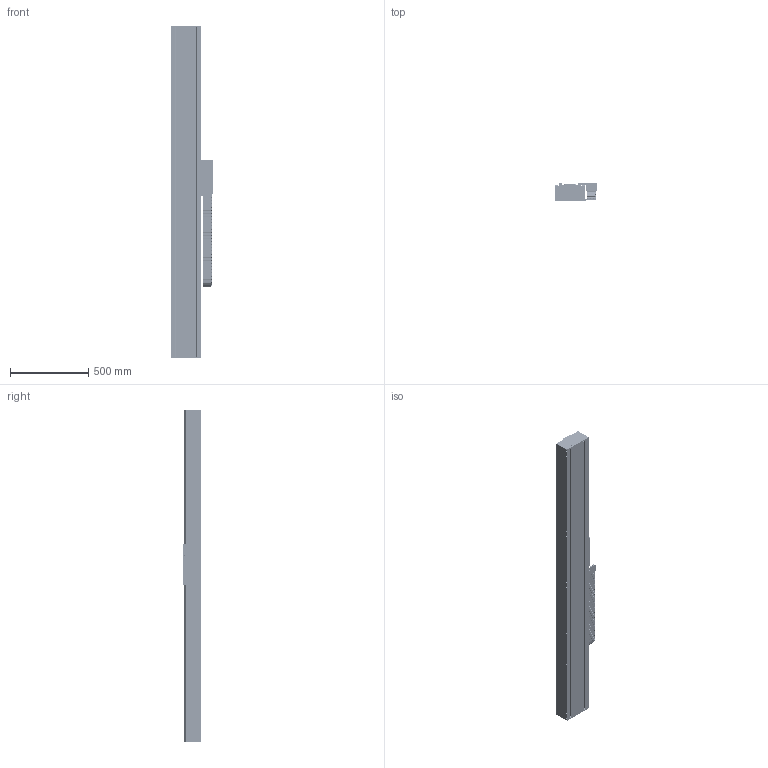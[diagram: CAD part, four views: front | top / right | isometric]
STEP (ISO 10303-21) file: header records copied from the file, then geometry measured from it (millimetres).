
FILE_DESCRIPTION (( 'STEP AP203' ), '1' );
FILE_NAME ('STF50200M-xC1B-Bxx.STEP', '2007-10-29T14:09:06', ( 'Yaskawa' ), ( 'Yaskawa' ), 'SwSTEP 2.0', 'SolidWorks 2007', '' );
FILE_SCHEMA (( 'CONFIG_CONTROL_DESIGN' ));
Products named in the file (57): STF50-007 End Stop; SSR20W Block; STF50-003 Renishaw Encoder Bracket; STCM-001-R2 Cable Bracket; STCM-R1; STCM-002-R2 Cable Assembly Front; STF50-006 Endplate; Serial Converter; 07.50.038.0_27; 07.50.038.0_25; 07.50.038.0_28; 07.50.038.0_26; 07.50.038.0_29; 07.50.038.0_36; 07.50.038.0_37; 07.50.038.0_38; 07.50.038.0_43; 07.50.038.0_44; STF50200M-xC1B-Bxx; STF50200 Base_STF50BM-012; SGLFM-50675AC; STF50 Large End Stop; Large Bumper; SSR20 Rail 820_2020; STF50-0200-R1 Carriage; STF50-001A F50-200 Carriage; SGLFW-50A200AP; STF50-004 Flag; STF50-002A-R1 F50-200 Carriage Horn; RGH22B; STF50-005-R2 Cable Router; STCM-003 Cable Assembly Bottom; STCM-004 Cable Assembly Side; STCM-005-R1 Cable Assembly Cover; STCM-006-R1 Upper E-chain Bracket; STF50-009-03 Top Cover_M; STF50200M; STF50-10-03 Side COver_M; STCM-007 Lower E-Chain Bracket; 07.50.038.0_20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
Assembly tree (102 placements, depth 4):
  STF50200M-xC1B-Bxx
    STF50-10-03 Side COver_M  x2
    STF50 Large End Stop  x4
      Large Bumper
      STF50-007 End Stop
    STF50200M
      07.50.038.0_31  x17
      07.50.038.0_35
      07.50.038.0_34
      07.50.038.0_39
      07.50.038.0_32  x19
      07.50.038.0_45
      07.50.038.0_43
      07.50.038.0_33
      07.50.038.0_44
      07.50.038.0_21
      07.50.038.0_22
      07.50.038.0_42
      07.50.038.0_37
      07.50.038.0_46
      07.50.038.0_20
      07.50.038.0_24
      07.50.038.0_47
      07.50.038.0_29
      07.50.038.0_38
      07.50.038.0_23
      07.50.038.0_28
      07.50.038.0_26
      07.50.038.0_40
      07.50.038.0_27
      07.50.038.0_30
      07.50.038.0_36
      07.50.038.0_41
      07.50.038.0_25
    STCM-007 Lower E-Chain Bracket
    STF50-006 Endplate  x2
    STF50-0200-R1 Carriage
      SSR20W Block  x4
      STF50-004 Flag
      STF50-003 Renishaw Encoder Bracket
      STF50-002A-R1 F50-200 Carriage Horn  x2
      STCM-R1
        STCM-006-R1 Upper E-chain Bracket
        STCM-005-R1 Cable Assembly Cover
        STCM-002-R2 Cable Assembly Front
        Serial Converter
        STCM-003 Cable Assembly Bottom
        STCM-001-R2 Cable Bracket
        STCM-004 Cable Assembly Side
      RGH22B
      STF50-005-R2 Cable Router
      SGLFW-50A200AP
      STF50-001A F50-200 Carriage
    STF50-009-03 Top Cover_M
    STF50200 Base_STF50BM-012
    SSR20 Rail 820_2020  x2
    SGLFM-50675AC  x3
Bounding box: 272.91 x 115 x 2119.05 mm (x, y, z)
Volume: 17451114.2 mm3; surface area: 4853283.6 mm2
Topology: 161 solids, 161 shells, 7763 faces, 20512 edges, 13150 vertices
Faces by surface type: plane 3919, cylinder 3292, cone 536, torus 8, bspline 8
Entity records: 142035 total; most frequent: DIRECTION 24196, CARTESIAN_POINT 23447, ORIENTED_EDGE 22236, EDGE_CURVE 11118, AXIS2_PLACEMENT_3D 8653, VERTEX_POINT 7274, VECTOR 6890, LINE 6890
